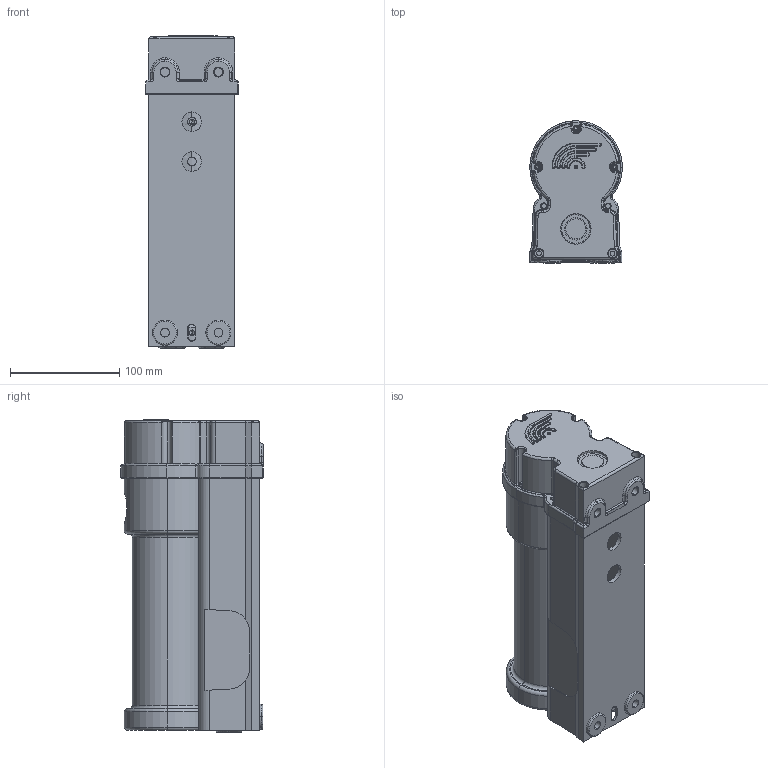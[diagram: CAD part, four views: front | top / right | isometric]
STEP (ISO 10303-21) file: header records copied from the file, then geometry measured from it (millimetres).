
FILE_DESCRIPTION (( 'STEP AP214' ), '1' );
FILE_NAME ('rechauffeur thermo start.step', '2014-01-14T14:34:16', ( '' ), ( '' ), 'SwSTEP 2.0', 'SolidWorks 2013', '' );
FILE_SCHEMA (( 'AUTOMOTIVE_DESIGN' ));
Length unit declared in the file: millimetre
Products named in the file (9): rechauffeur thermo start; corp de chauffe ths; 1597020-A; ip2632-refoidisseur-2012-09-10; GRCAPCAR1; 1597020-B; 462614; 1597020-R; 1597020-C
Assembly tree (9 placements, depth 3):
  rechauffeur thermo start
    corp de chauffe ths
    GRCAPCAR1
    ip2632-refoidisseur-2012-09-10
    462614  x2
      1597020-A
      1597020-B
      1597020-C
      1597020-R
Bounding box: 85.04 x 130.46 x 286.9 mm (x, y, z)
Volume: 687247.4 mm3; surface area: 305651 mm2
Topology: 10 solids, 11 shells, 1243 faces, 3286 edges, 2066 vertices
Faces by surface type: cylinder 492, plane 336, bspline 336, cone 64, torus 15
Entity records: 74684 total; most frequent: CARTESIAN_POINT 50079, ORIENTED_EDGE 4916, DIRECTION 3706, EDGE_CURVE 2483, VERTEX_POINT 1553, AXIS2_PLACEMENT_3D 1421, EDGE_LOOP 1053, ADVANCED_FACE 976
